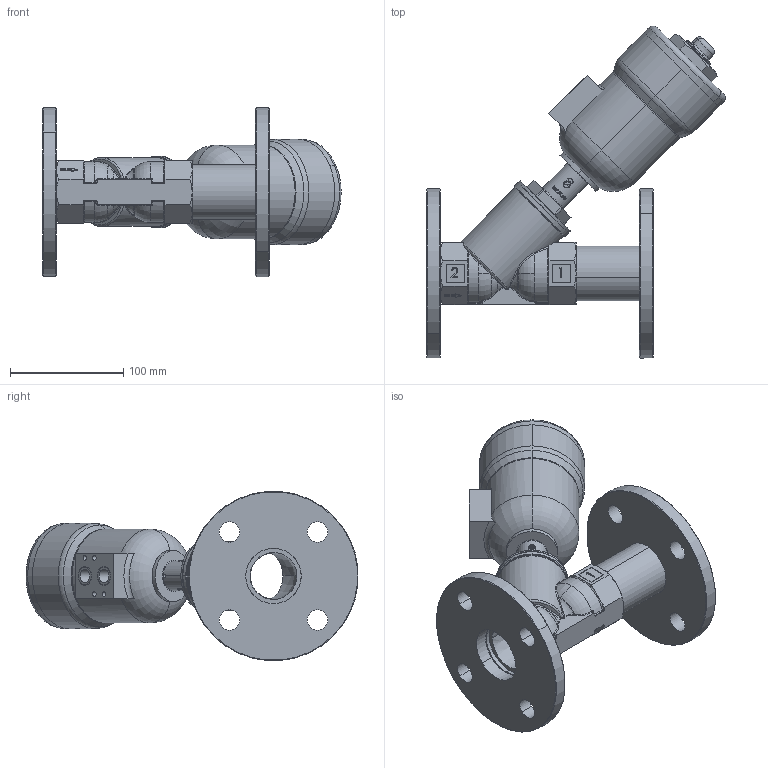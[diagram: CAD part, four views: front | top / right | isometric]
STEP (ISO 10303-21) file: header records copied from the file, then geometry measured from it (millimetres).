
FILE_DESCRIPTION (( 'STEP AP203' ), '1' );
FILE_NAME ('PCIPFM_040_2_2.STEP', '2018-03-27T06:50:12', ( 'user' ), ( '' ), 'SwSTEP 2.0', 'SolidWorks 2013', '' );
FILE_SCHEMA (( 'CONFIG_CONTROL_DESIGN' ));
Length unit declared in the file: millimetre
Products named in the file (1): PCIPFM_040_2_2
Bounding box: 263.8 x 293.52 x 149.43 mm (x, y, z)
Surface area: 197845.3 mm2 (no closed solid volume)
Topology: 0 solids, 19 shells, 448 faces, 1495 edges, 1037 vertices
Faces by surface type: plane 141, cylinder 130, bspline 72, torus 54, cone 45, sphere 6
Entity records: 24956 total; most frequent: CARTESIAN_POINT 12864, ORIENTED_EDGE 2398, DIRECTION 2264, EDGE_CURVE 1495, VERTEX_POINT 1037, AXIS2_PLACEMENT_3D 860, LINE 544, VECTOR 544
